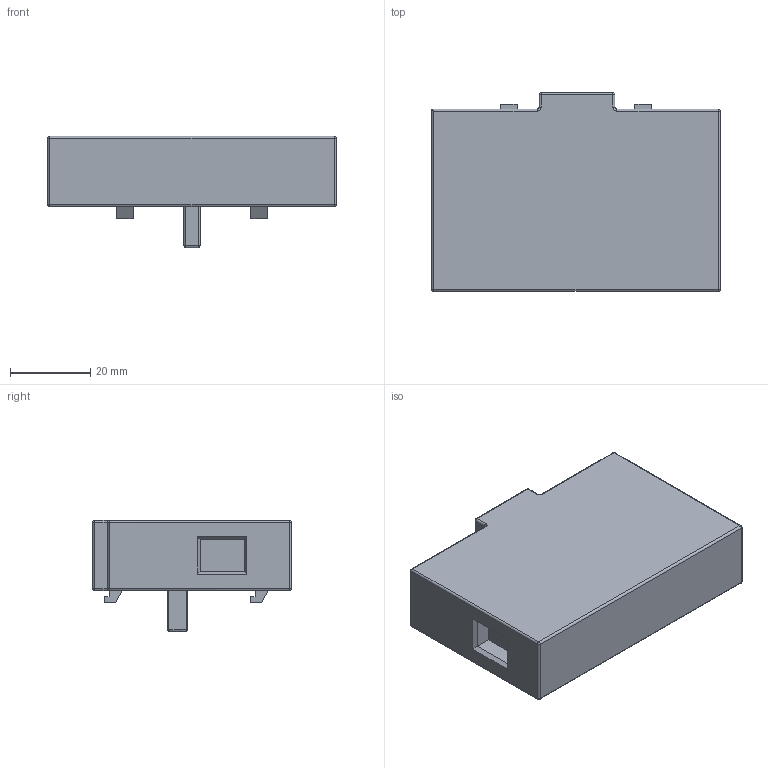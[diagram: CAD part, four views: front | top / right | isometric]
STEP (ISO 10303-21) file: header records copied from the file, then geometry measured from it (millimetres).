
FILE_DESCRIPTION((''),'2;1');
FILE_NAME('PRT0001','2020-05-14T12:51:07',('DPoczon'),('Rockwell Automation Switzerland GmbH'),'CREO PARAMETRIC BY PTC INC, 2017380','CREO PARAMETRIC BY PTC INC, 2017380','');
FILE_SCHEMA(('AUTOMOTIVE_DESIGN { 1 0 10303 214 1 1 1 1 }'));
Length unit declared in the file: millimetre
Products named in the file (1): PRT0001
Bounding box: 71.9 x 49.5 x 27.75 mm (x, y, z)
Volume: 57511.1 mm3; surface area: 11759.1 mm2
Topology: 1 solids, 1 shells, 125 faces, 281 edges, 166 vertices
Faces by surface type: plane 66, cylinder 37, sphere 10, torus 8, bspline 4
Entity records: 6252 total; most frequent: CARTESIAN_POINT 1001, DIRECTION 600, ORIENTED_EDGE 562, PRESENTATION_STYLE_ASSIGNMENT 407, STYLED_ITEM 282, CURVE_STYLE 281, EDGE_CURVE 281, FILL_AREA_STYLE_COLOUR 251
